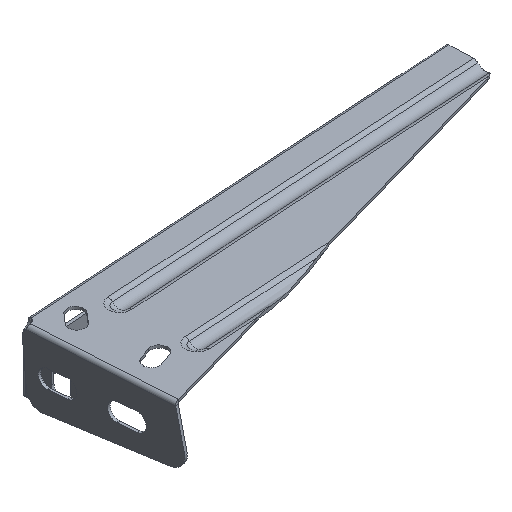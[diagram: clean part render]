
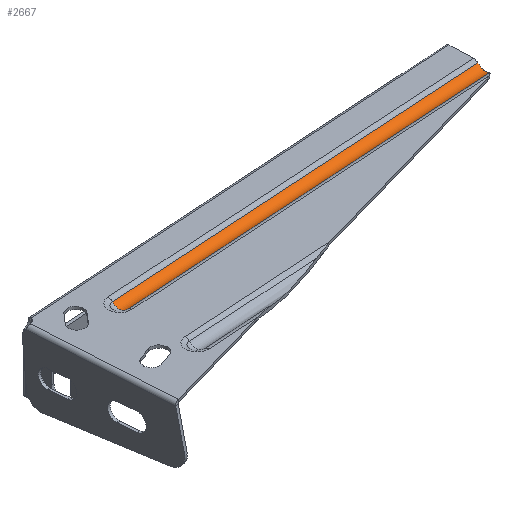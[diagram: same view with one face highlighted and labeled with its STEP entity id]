
A CAD part, isometric view. The second image highlights one B-rep face of the part: STEP entity #2667.
In plain terms, the highlighted cylindrical face has radius 5 mm (diameter 10 mm), a partial arc.
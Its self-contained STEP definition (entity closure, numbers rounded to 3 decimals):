
#55 = EDGE_LOOP ( 'NONE', ( #3828, #1122, #3485, #2915, #2866 ) ) ;
#77 = FACE_OUTER_BOUND ( 'NONE', #55, .T. ) ;
#272 =( BOUNDED_CURVE ( )  B_SPLINE_CURVE ( 3, ( #2852, #3198, #3410, #1670 ),
 .UNSPECIFIED., .F., .T. ) 
 B_SPLINE_CURVE_WITH_KNOTS ( ( 4, 4 ),
 ( 0.675, 1.376 ),
 .UNSPECIFIED. ) 
 CURVE ( )  GEOMETRIC_REPRESENTATION_ITEM ( )  RATIONAL_B_SPLINE_CURVE ( ( 1., 0.959, 0.959, 1. ) ) 
 REPRESENTATION_ITEM ( '' )  );
#308 = DIRECTION ( 'NONE',  ( -0.062, 0.998, 0. ) ) ;
#311 = DIRECTION ( 'NONE',  ( 0.998, 0.062, 0. ) ) ;
#469 = CARTESIAN_POINT ( 'NONE',  ( 249.106, -5.151, -1.5 ) ) ;
#569 = AXIS2_PLACEMENT_3D ( 'NONE', #1824, #1543, #308 ) ;
#586 = VERTEX_POINT ( 'NONE', #1708 ) ;
#653 = VECTOR ( 'NONE', #311, 1000. ) ;
#654 = EDGE_CURVE ( 'NONE', #2590, #2256, #272, .T. ) ;
#760 = CARTESIAN_POINT ( 'NONE',  ( 248.361, -8.305, -0.769 ) ) ;
#778 = CARTESIAN_POINT ( 'NONE',  ( 247.572, -9.647, 0.375 ) ) ;
#997 = CARTESIAN_POINT ( 'NONE',  ( 248.987, -1.738, 0.375 ) ) ;
#1069 = CARTESIAN_POINT ( 'NONE',  ( 247.675, -9.505, 0.206 ) ) ;
#1122 = ORIENTED_EDGE ( 'NONE', *, *, #3424, .F. ) ;
#1238 = EDGE_CURVE ( 'NONE', #3767, #586, #1492, .T. ) ;
#1302 = CARTESIAN_POINT ( 'NONE',  ( 247.98, -9.03, -0.252 ) ) ;
#1361 = CARTESIAN_POINT ( 'NONE',  ( 248.079, -8.857, -0.392 ) ) ;
#1489 = CARTESIAN_POINT ( 'NONE',  ( 34.759, -14.98, 0.375 ) ) ;
#1492 = LINE ( 'NONE', #1511, #653 ) ;
#1511 = CARTESIAN_POINT ( 'NONE',  ( 35.24, -22.771, 0.375 ) ) ;
#1543 = DIRECTION ( 'NONE',  ( -0.998, -0.062, 0. ) ) ;
#1581 = B_SPLINE_CURVE_WITH_KNOTS ( 'NONE', 3,
 ( #3693, #469, #3067, #2181, #2253, #2215, #2233, #760, #2838, #1361, #1302, #3729, #1069, #778 ),
 .UNSPECIFIED., .F., .F.,
 ( 4, 2, 2, 2, 2, 2, 4 ),
 ( 0., 0.001, 0.003, 0.004, 0.004, 0.005, 0.006 ),
 .UNSPECIFIED. ) ;
#1670 = CARTESIAN_POINT ( 'NONE',  ( 249.089, -4.672, -1.405 ) ) ;
#1708 = CARTESIAN_POINT ( 'NONE',  ( 247.572, -9.647, 0.375 ) ) ;
#1824 = CARTESIAN_POINT ( 'NONE',  ( 34.999, -18.875, 3.5 ) ) ;
#2045 = EDGE_CURVE ( 'NONE', #2256, #586, #1581, .T. ) ;
#2065 = CARTESIAN_POINT ( 'NONE',  ( 35.24, -22.771, 0.375 ) ) ;
#2115 = DIRECTION ( 'NONE',  ( -0.062, 0.998, 0. ) ) ;
#2155 = AXIS2_PLACEMENT_3D ( 'NONE', #3020, #3592, #2115 ) ;
#2181 = CARTESIAN_POINT ( 'NONE',  ( 248.94, -6.59, -1.435 ) ) ;
#2208 = CARTESIAN_POINT ( 'NONE',  ( 249.089, -4.672, -1.405 ) ) ;
#2215 = CARTESIAN_POINT ( 'NONE',  ( 248.612, -7.698, -1.078 ) ) ;
#2233 = CARTESIAN_POINT ( 'NONE',  ( 248.532, -7.907, -0.983 ) ) ;
#2253 = CARTESIAN_POINT ( 'NONE',  ( 248.828, -7.048, -1.325 ) ) ;
#2256 = VERTEX_POINT ( 'NONE', #2208 ) ;
#2407 = CYLINDRICAL_SURFACE ( 'NONE', #2155, 5. ) ;
#2495 = VECTOR ( 'NONE', #3293, 1000. ) ;
#2566 = VERTEX_POINT ( 'NONE', #2770 ) ;
#2590 = VERTEX_POINT ( 'NONE', #997 ) ;
#2667 = ADVANCED_FACE ( 'NONE', ( #77 ), #2407, .F. ) ;
#2770 = CARTESIAN_POINT ( 'NONE',  ( 34.759, -14.98, 0.375 ) ) ;
#2838 = CARTESIAN_POINT ( 'NONE',  ( 248.27, -8.494, -0.651 ) ) ;
#2852 = CARTESIAN_POINT ( 'NONE',  ( 248.987, -1.738, 0.375 ) ) ;
#2866 = ORIENTED_EDGE ( 'NONE', *, *, #2045, .F. ) ;
#2915 = ORIENTED_EDGE ( 'NONE', *, *, #1238, .T. ) ;
#3016 = LINE ( 'NONE', #1489, #2495 ) ;
#3020 = CARTESIAN_POINT ( 'NONE',  ( 34.999, -18.875, 3.5 ) ) ;
#3067 = CARTESIAN_POINT ( 'NONE',  ( 249.08, -5.63, -1.523 ) ) ;
#3198 = CARTESIAN_POINT ( 'NONE',  ( 249.013, -2.483, -0.556 ) ) ;
#3293 = DIRECTION ( 'NONE',  ( 0.998, 0.062, 0. ) ) ;
#3362 = CIRCLE ( 'NONE', #569, 5. ) ;
#3371 = EDGE_CURVE ( 'NONE', #2566, #3767, #3362, .T. ) ;
#3410 = CARTESIAN_POINT ( 'NONE',  ( 249.049, -3.502, -1.174 ) ) ;
#3424 = EDGE_CURVE ( 'NONE', #2566, #2590, #3016, .T. ) ;
#3485 = ORIENTED_EDGE ( 'NONE', *, *, #3371, .T. ) ;
#3592 = DIRECTION ( 'NONE',  ( 0.998, 0.062, 0. ) ) ;
#3693 = CARTESIAN_POINT ( 'NONE',  ( 249.089, -4.672, -1.405 ) ) ;
#3729 = CARTESIAN_POINT ( 'NONE',  ( 247.777, -9.353, 0.047 ) ) ;
#3767 = VERTEX_POINT ( 'NONE', #2065 ) ;
#3828 = ORIENTED_EDGE ( 'NONE', *, *, #654, .F. ) ;
